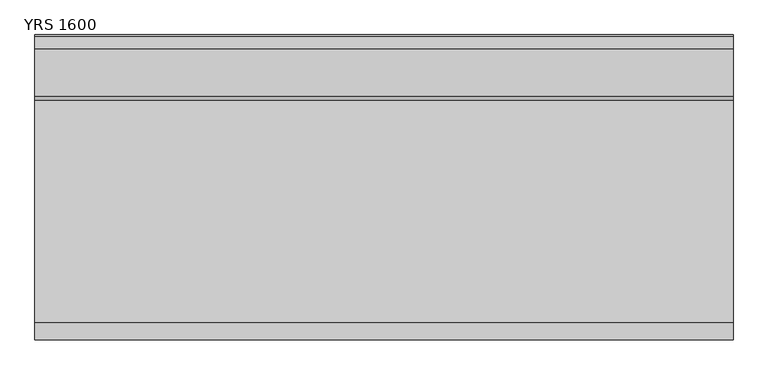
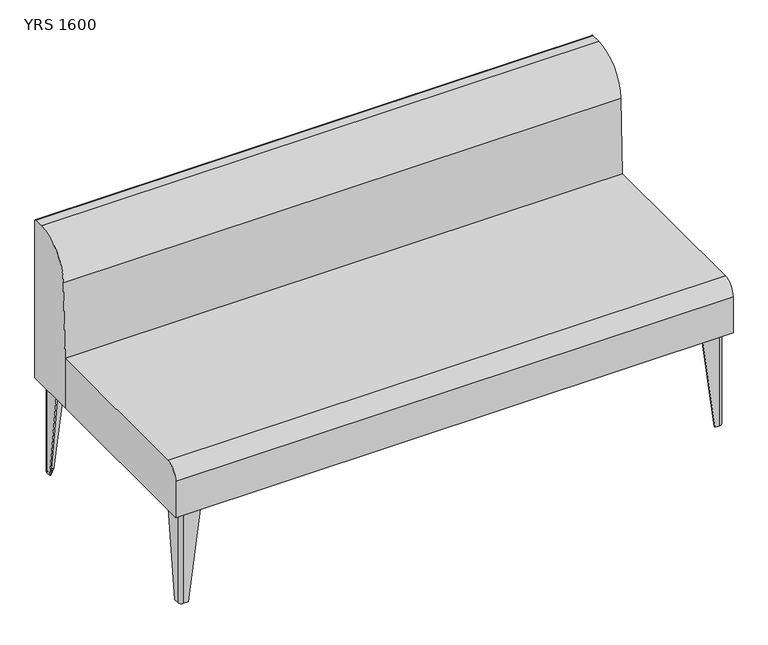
"""IFC4 building model written with IfcOpenShell, lengths in millimetres: furniture geometry, Mobiliário_Mobiliário de Escritório_LinhaYoung_Sofa Reto (Aço) - YR_Marelli : YRS 1600."""

from ifc_helpers import new_model, si_unit, point, frame, frame_2d, origin, origin_with_axes, place, context, project, spatial, polyline, circle_curve, trimmed, segment, composite_curve, outline, extrude, source, transform, mapped, element, save
from ifc_brep_helpers import plane_surface, cylinder_surface, revolved_surface, advanced_brep


def yrs_1600_2b5b6c77(model_context):
    return source(origin(), model_context, "Body", "SolidModel", [
        advanced_brep(
        [(20.0, 75.0, 280.0), (20.0, 25.0, 280.0), (30.0, 15.0, 280.0), (80.0, 15.0, 280.0), (80.0, 18.0, 280.0), (30.0, 18.0, 280.0), (23.0, 25.0, 280.0), (23.0, 75.0, 280.0), (20.0, 39.0, 0.0), (23.0, 39.0, 0.0), (23.0, 25.0, 0.0), (30.0, 18.0, 0.0), (44.0, 18.0, 0.0), (44.0, 15.0, 0.0), (30.0, 15.0, 0.0), (20.0, 25.0, 0.0)],
        [
            (0, 1),
            (1, 2, circle_curve(frame((30.0, 25.0, 280.0), z_axis=(0.0, 0.0, 1.0), x_axis=(0.0, -1.0, 0.0)), 10.0)),
            (2, 3),
            (3, 4),
            (4, 5),
            (5, 6, circle_curve(frame((30.0, 25.0, 280.0), z_axis=(0.0, 0.0, -1.0), x_axis=(-1.0, 0.0, 0.0)), 7.0)),
            (6, 7),
            (7, 0),
            (8, 9),
            (9, 10),
            (10, 11, circle_curve(frame((30.0, 25.0, 0.0), z_axis=(0.0, 0.0, 1.0), x_axis=(-1.0, 0.0, 0.0)), 7.0)),
            (11, 12),
            (12, 13),
            (13, 14),
            (14, 15, circle_curve(frame((30.0, 25.0, 0.0), z_axis=(0.0, 0.0, -1.0), x_axis=(0.0, -1.0, 0.0)), 10.0)),
            (15, 8),
            (15, 1),
            (0, 8),
            (14, 2),
            (13, 3),
            (12, 4),
            (11, 5),
            (10, 6),
            (9, 7),
        ],
        [
            plane_surface(frame((38.25, 33.25, 280.0), z_axis=(0.0, 0.0, 1.0), x_axis=(0.0, -1.0, 0.0))),
            plane_surface(frame((29.25, 24.25, 0.0), z_axis=(0.0, 0.0, -1.0), x_axis=(0.0, -1.0, 0.0))),
            plane_surface(frame((20.0, 32.0, 0.0), z_axis=(-1.0, 0.0, 0.0), x_axis=(0.0, -1.0, 0.0))),
            cylinder_surface(frame((30.0, 25.0, 0.0), z_axis=(0.0, 0.0, 1.0), x_axis=(0.0, -1.0, 0.0)), 10.0),
            plane_surface(frame((37.0, 15.0, 0.0), z_axis=(0.0, -1.0, 0.0), x_axis=(1.0, 0.0, 0.0))),
            plane_surface(frame((44.0, 16.5, 0.0), z_axis=(0.9918357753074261, 0.0, -0.12752174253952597), x_axis=(0.0, 1.0, 0.0))),
            plane_surface(frame((37.0, 18.0, 0.0), z_axis=(0.0, 1.0, 0.0), x_axis=(-1.0, 0.0, 0.0))),
            revolved_surface(polyline([(23.0, 25.0, 280.0), (23.0, 25.0, 0.0)]), (30.0, 25.0, 0.0), (0.0, 0.0, 1.0)),
            plane_surface(frame((23.0, 32.0, 0.0), z_axis=(1.0, 0.0, 0.0), x_axis=(0.0, 1.0, 0.0))),
            plane_surface(frame((21.5, 39.0, 0.0), z_axis=(0.0, 0.9918357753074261, -0.12752174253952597), x_axis=(-1.0, 0.0, 0.0))),
        ],
        [
            (0, [[1, 2, 3, 4, 5, 6, 7, 8]]),
            (1, [[9, 10, 11, 12, 13, 14, 15, 16]]),
            (2, [[-16, 17, -1, 18]]),
            (3, [[-15, 19, -2, -17]]),
            (4, [[-14, 20, -3, -19]]),
            (5, [[-13, 21, -4, -20]]),
            (6, [[-12, 22, -5, -21]]),
            (7, [[-11, 23, -6, -22]]),
            (8, [[-10, 24, -7, -23]]),
            (9, [[-9, -18, -8, -24]]),
        ],
    ),
        advanced_brep(
        [(1580.0, 75.0, 280.0), (1577.0, 75.0, 280.0), (1577.0, 25.0, 280.0), (1570.0, 18.0, 280.0), (1520.0, 18.0, 280.0), (1520.0, 15.0, 280.0), (1570.0, 15.0, 280.0), (1580.0, 25.0, 280.0), (1580.0, 39.0, 0.0), (1580.0, 25.0, 0.0), (1570.0, 15.0, 0.0), (1556.0, 15.0, 0.0), (1556.0, 18.0, 0.0), (1570.0, 18.0, 0.0), (1577.0, 25.0, 0.0), (1577.0, 39.0, 0.0)],
        [
            (0, 1),
            (1, 2),
            (2, 3, circle_curve(frame((1570.0, 25.0, 280.0), z_axis=(0.0, 0.0, -1.0), x_axis=(0.0, -1.0, 0.0)), 7.0)),
            (3, 4),
            (4, 5),
            (5, 6),
            (6, 7, circle_curve(frame((1570.0, 25.0, 280.0), z_axis=(0.0, 0.0, 1.0), x_axis=(1.0, 0.0, 0.0)), 10.0)),
            (7, 0),
            (8, 9),
            (9, 10, circle_curve(frame((1570.0, 25.0, 0.0), z_axis=(0.0, 0.0, -1.0), x_axis=(1.0, 0.0, 0.0)), 10.0)),
            (10, 11),
            (11, 12),
            (12, 13),
            (13, 14, circle_curve(frame((1570.0, 25.0, 0.0), z_axis=(0.0, 0.0, 1.0), x_axis=(0.0, -1.0, 0.0)), 7.0)),
            (14, 15),
            (15, 8),
            (8, 0),
            (7, 9),
            (6, 10),
            (5, 11),
            (4, 12),
            (3, 13),
            (2, 14),
            (1, 15),
        ],
        [
            plane_surface(frame((1561.75, 33.25, 280.0), z_axis=(0.0, 0.0, 1.0), x_axis=(-1.0, 0.0, 0.0))),
            plane_surface(frame((1570.75, 24.25, 0.0), z_axis=(0.0, 0.0, -1.0), x_axis=(-1.0, 0.0, 0.0))),
            plane_surface(frame((1580.0, 32.0, 0.0), z_axis=(1.0, 0.0, 0.0), x_axis=(0.0, 1.0, 0.0))),
            cylinder_surface(frame((1570.0, 25.0, 0.0), z_axis=(0.0, 0.0, 1.0), x_axis=(1.0, 0.0, 0.0)), 10.0),
            plane_surface(frame((1563.0, 15.0, 0.0), z_axis=(0.0, -1.0, 0.0), x_axis=(1.0, 0.0, 0.0))),
            plane_surface(frame((1556.0, 16.5, 0.0), z_axis=(-0.9918357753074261, 0.0, -0.127521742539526), x_axis=(0.0, -1.0, 0.0))),
            plane_surface(frame((1563.0, 18.0, 0.0), z_axis=(0.0, 1.0, 0.0), x_axis=(-1.0, 0.0, 0.0))),
            revolved_surface(polyline([(1570.0, 18.0, 280.0), (1570.0, 18.0, 0.0)]), (1570.0, 25.0, 0.0), (0.0, 0.0, 1.0)),
            plane_surface(frame((1577.0, 32.0, 0.0), z_axis=(-1.0, 0.0, 0.0), x_axis=(0.0, -1.0, 0.0))),
            plane_surface(frame((1578.5, 39.0, 0.0), z_axis=(0.0, 0.9918357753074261, -0.12752174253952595), x_axis=(-1.0, 0.0, 0.0))),
        ],
        [
            (0, [[1, 2, 3, 4, 5, 6, 7, 8]]),
            (1, [[9, 10, 11, 12, 13, 14, 15, 16]]),
            (2, [[-9, 17, -8, 18]]),
            (3, [[-10, -18, -7, 19]]),
            (4, [[-11, -19, -6, 20]]),
            (5, [[-12, -20, -5, 21]]),
            (6, [[-13, -21, -4, 22]]),
            (7, [[-14, -22, -3, 23]]),
            (8, [[-15, -23, -2, 24]]),
            (9, [[-16, -24, -1, -17]]),
        ],
    ),
        advanced_brep(
        [(20.0, 625.0, 280.0), (23.0, 625.0, 280.0), (23.0, 675.0, 280.0), (30.0, 682.0, 280.0), (80.0, 682.0, 280.0), (80.0, 685.0, 280.0), (30.0, 685.0, 280.0), (20.0, 675.0, 280.0), (20.0, 661.0, 0.0), (20.0, 675.0, 0.0), (30.0, 685.0, 0.0), (44.0, 685.0, 0.0), (44.0, 682.0, 0.0), (30.0, 682.0, 0.0), (23.0, 675.0, 0.0), (23.0, 661.0, 0.0)],
        [
            (0, 1),
            (1, 2),
            (2, 3, circle_curve(frame((30.0, 675.0, 280.0), z_axis=(0.0, 0.0, -1.0), x_axis=(0.0, 1.0, 0.0)), 7.0)),
            (3, 4),
            (4, 5),
            (5, 6),
            (6, 7, circle_curve(frame((30.0, 675.0, 280.0), z_axis=(0.0, 0.0, 1.0), x_axis=(-1.0, 0.0, 0.0)), 10.0)),
            (7, 0),
            (8, 9),
            (9, 10, circle_curve(frame((30.0, 675.0, 0.0), z_axis=(0.0, 0.0, -1.0), x_axis=(-1.0, 0.0, 0.0)), 10.0)),
            (10, 11),
            (11, 12),
            (12, 13),
            (13, 14, circle_curve(frame((30.0, 675.0, 0.0), z_axis=(0.0, 0.0, 1.0), x_axis=(0.0, 1.0, 0.0)), 7.0)),
            (14, 15),
            (15, 8),
            (8, 0),
            (7, 9),
            (6, 10),
            (5, 11),
            (4, 12),
            (3, 13),
            (2, 14),
            (1, 15),
        ],
        [
            plane_surface(frame((38.25, 666.75, 280.0), z_axis=(0.0, 0.0, 1.0), x_axis=(1.0, 0.0, 0.0))),
            plane_surface(frame((29.25, 675.75, 0.0), z_axis=(0.0, 0.0, -1.0), x_axis=(1.0, 0.0, 0.0))),
            plane_surface(frame((20.0, 668.0, 0.0), z_axis=(-1.0, 0.0, 0.0), x_axis=(0.0, -1.0, 0.0))),
            cylinder_surface(frame((30.0, 675.0, 0.0), z_axis=(0.0, 0.0, 1.0), x_axis=(-1.0, 0.0, 0.0)), 10.0),
            plane_surface(frame((37.0, 685.0, 0.0), z_axis=(0.0, 1.0, 0.0), x_axis=(-1.0, 0.0, 0.0))),
            plane_surface(frame((44.0, 683.5, 0.0), z_axis=(0.9918357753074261, 0.0, -0.12752174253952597), x_axis=(0.0, 1.0, 0.0))),
            plane_surface(frame((37.0, 682.0, 0.0), z_axis=(0.0, -1.0, 0.0), x_axis=(1.0, 0.0, 0.0))),
            revolved_surface(polyline([(30.0, 682.0, 280.0), (30.0, 682.0, 0.0)]), (30.0, 675.0, 0.0), (0.0, 0.0, 1.0)),
            plane_surface(frame((23.0, 668.0, 0.0), z_axis=(1.0, 0.0, 0.0), x_axis=(0.0, 1.0, 0.0))),
            plane_surface(frame((21.5, 661.0, 0.0), z_axis=(0.0, -0.9918357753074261, -0.127521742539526), x_axis=(1.0, 0.0, 0.0))),
        ],
        [
            (0, [[1, 2, 3, 4, 5, 6, 7, 8]]),
            (1, [[9, 10, 11, 12, 13, 14, 15, 16]]),
            (2, [[-9, 17, -8, 18]]),
            (3, [[-10, -18, -7, 19]]),
            (4, [[-11, -19, -6, 20]]),
            (5, [[-12, -20, -5, 21]]),
            (6, [[-13, -21, -4, 22]]),
            (7, [[-14, -22, -3, 23]]),
            (8, [[-15, -23, -2, 24]]),
            (9, [[-16, -24, -1, -17]]),
        ],
    ),
        advanced_brep(
        [(1580.0, 625.0, 280.0), (1580.0, 675.0, 280.0), (1570.0, 685.0, 280.0), (1520.0, 685.0, 280.0), (1520.0, 682.0, 280.0), (1570.0, 682.0, 280.0), (1577.0, 675.0, 280.0), (1577.0, 625.0, 280.0), (1580.0, 661.0, 0.0), (1577.0, 661.0, 0.0), (1577.0, 675.0, 0.0), (1570.0, 682.0, 0.0), (1556.0, 682.0, 0.0), (1556.0, 685.0, 0.0), (1570.0, 685.0, 0.0), (1580.0, 675.0, 0.0)],
        [
            (0, 1),
            (1, 2, circle_curve(frame((1570.0, 675.0, 280.0), z_axis=(0.0, 0.0, 1.0), x_axis=(0.0, 1.0, 0.0)), 10.0)),
            (2, 3),
            (3, 4),
            (4, 5),
            (5, 6, circle_curve(frame((1570.0, 675.0, 280.0), z_axis=(0.0, 0.0, -1.0), x_axis=(1.0, 0.0, 0.0)), 7.0)),
            (6, 7),
            (7, 0),
            (8, 9),
            (9, 10),
            (10, 11, circle_curve(frame((1570.0, 675.0, 0.0), z_axis=(0.0, 0.0, 1.0), x_axis=(1.0, 0.0, 0.0)), 7.0)),
            (11, 12),
            (12, 13),
            (13, 14),
            (14, 15, circle_curve(frame((1570.0, 675.0, 0.0), z_axis=(0.0, 0.0, -1.0), x_axis=(0.0, 1.0, 0.0)), 10.0)),
            (15, 8),
            (15, 1),
            (0, 8),
            (14, 2),
            (13, 3),
            (12, 4),
            (11, 5),
            (10, 6),
            (9, 7),
        ],
        [
            plane_surface(frame((1561.75, 666.75, 280.0), z_axis=(0.0, 0.0, 1.0), x_axis=(0.0, 1.0, 0.0))),
            plane_surface(frame((1570.75, 675.75, 0.0), z_axis=(0.0, 0.0, -1.0), x_axis=(0.0, 1.0, 0.0))),
            plane_surface(frame((1580.0, 668.0, 0.0), z_axis=(1.0, 0.0, 0.0), x_axis=(0.0, 1.0, 0.0))),
            cylinder_surface(frame((1570.0, 675.0, 0.0), z_axis=(0.0, 0.0, 1.0), x_axis=(0.0, 1.0, 0.0)), 10.0),
            plane_surface(frame((1563.0, 685.0, 0.0), z_axis=(0.0, 1.0, 0.0), x_axis=(-1.0, 0.0, 0.0))),
            plane_surface(frame((1556.0, 683.5, 0.0), z_axis=(-0.9918357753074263, 0.0, -0.1275217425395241), x_axis=(0.0, -1.0, 0.0))),
            plane_surface(frame((1563.0, 682.0, 0.0), z_axis=(0.0, -1.0, 0.0), x_axis=(1.0, 0.0, 0.0))),
            revolved_surface(polyline([(1577.0, 675.0, 280.0), (1577.0, 675.0, 0.0)]), (1570.0, 675.0, 0.0), (0.0, 0.0, 1.0)),
            plane_surface(frame((1577.0, 668.0, 0.0), z_axis=(-1.0, 0.0, 0.0), x_axis=(0.0, -1.0, 0.0))),
            plane_surface(frame((1578.5, 661.0, 0.0), z_axis=(0.0, -0.9918357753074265, -0.1275217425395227), x_axis=(1.0, 0.0, 0.0))),
        ],
        [
            (0, [[1, 2, 3, 4, 5, 6, 7, 8]]),
            (1, [[9, 10, 11, 12, 13, 14, 15, 16]]),
            (2, [[-16, 17, -1, 18]]),
            (3, [[-15, 19, -2, -17]]),
            (4, [[-14, 20, -3, -19]]),
            (5, [[-13, 21, -4, -20]]),
            (6, [[-12, 22, -5, -21]]),
            (7, [[-11, 23, -6, -22]]),
            (8, [[-10, 24, -7, -23]]),
            (9, [[-9, -18, -8, -24]]),
        ],
    ),
        extrude(outline(composite_curve([segment(polyline([(23.0, 39.0), (44.0, 18.0), (30.0, 18.0)]), True, "CONTINUOUS"), segment(trimmed(circle_curve(frame_2d((30.0, 25.0)), 7.0), [point((30.0, 18.0))], [point((23.0, 25.0))], False, "CARTESIAN"), True, "CONTINUOUS"), segment(polyline([(23.0, 25.0), (23.0, 39.0)]), True, "CONTINUOUS")], self_intersect=False)), origin_with_axes(), (0.0, 0.0, 1.0), 1.0),
        extrude(outline(composite_curve([segment(polyline([(23.0, 661.0), (23.0, 675.0)]), True, "CONTINUOUS"), segment(trimmed(circle_curve(frame_2d((30.0, 675.0)), 7.0), [point((23.0, 675.0))], [point((30.0, 682.0))], False, "CARTESIAN"), True, "CONTINUOUS"), segment(polyline([(30.0, 682.0), (44.0, 682.0), (23.0, 661.0)]), True, "CONTINUOUS")], self_intersect=False)), origin_with_axes(), (0.0, 0.0, 1.0), 1.0),
        extrude(outline(composite_curve([segment(polyline([(1577.0, 39.0), (1577.0, 25.0)]), True, "CONTINUOUS"), segment(trimmed(circle_curve(frame_2d((1570.0, 25.0)), 7.0), [point((1577.0, 25.0))], [point((1570.0, 18.0))], False, "CARTESIAN"), True, "CONTINUOUS"), segment(polyline([(1570.0, 18.0), (1556.0, 18.0), (1577.0, 39.0)]), True, "CONTINUOUS")], self_intersect=False)), origin_with_axes(), (0.0, 0.0, 1.0), 1.0),
        extrude(outline(composite_curve([segment(polyline([(1577.0, 661.0), (1556.0, 682.0), (1570.0, 682.0)]), True, "CONTINUOUS"), segment(trimmed(circle_curve(frame_2d((1570.0, 675.0)), 7.0), [point((1570.0, 682.0))], [point((1577.0, 675.0))], False, "CARTESIAN"), True, "CONTINUOUS"), segment(polyline([(1577.0, 675.0), (1577.0, 661.0)]), True, "CONTINUOUS")], self_intersect=False)), origin_with_axes(), (0.0, 0.0, 1.0), 1.0),
        extrude(outline(composite_curve([segment(trimmed(circle_curve(frame_2d((30.0, 25.0)), 7.0), [point((30.0, 18.0))], [point((23.0, 25.0))], False, "CARTESIAN"), True, "CONTINUOUS"), segment(polyline([(23.0, 25.0), (23.0, 93.0)]), True, "CONTINUOUS"), segment(trimmed(circle_curve(frame_2d((28.0, 93.0)), 5.0), [point((23.0, 93.0))], [point((28.0, 98.0))], False, "CARTESIAN"), True, "CONTINUOUS"), segment(polyline([(28.0, 98.0), (51.9545624, 98.0)]), True, "CONTINUOUS"), segment(trimmed(circle_curve(frame_2d((52.6241051, 89.931755)), 8.0959783), [point((51.9545624, 98.0))], [point((58.520382, 95.479618))], False, "CARTESIAN"), True, "CONTINUOUS"), segment(polyline([(58.520382, 95.479618), (100.479618, 53.520382)]), True, "CONTINUOUS"), segment(trimmed(circle_curve(frame_2d((94.931755, 47.6241051)), 8.0959783), [point((100.479618, 53.520382))], [point((103.0, 46.9545624))], False, "CARTESIAN"), True, "CONTINUOUS"), segment(polyline([(103.0, 46.9545624), (103.0, 23.0)]), True, "CONTINUOUS"), segment(trimmed(circle_curve(frame_2d((98.0, 23.0)), 5.0), [point((103.0, 23.0))], [point((98.0, 18.0))], False, "CARTESIAN"), True, "CONTINUOUS"), segment(polyline([(98.0, 18.0), (30.0, 18.0)]), True, "CONTINUOUS")], self_intersect=False)), frame((0.0, 0.0, 279.0), z_axis=(0.0, 0.0, 1.0), x_axis=(1.0, 0.0, 0.0)), (0.0, 0.0, 1.0), 1.0),
        extrude(outline(composite_curve([segment(polyline([(30.0, 682.0), (98.0, 682.0)]), True, "CONTINUOUS"), segment(trimmed(circle_curve(frame_2d((98.0, 677.0)), 5.0), [point((98.0, 682.0))], [point((103.0, 677.0))], False, "CARTESIAN"), True, "CONTINUOUS"), segment(polyline([(103.0, 677.0), (103.0, 653.0454376)]), True, "CONTINUOUS"), segment(trimmed(circle_curve(frame_2d((94.931755, 652.3758949)), 8.0959783), [point((103.0, 653.0454376))], [point((100.479618, 646.479618))], False, "CARTESIAN"), True, "CONTINUOUS"), segment(polyline([(100.479618, 646.479618), (58.520382, 604.520382)]), True, "CONTINUOUS"), segment(trimmed(circle_curve(frame_2d((52.6241051, 610.068245)), 8.0959783), [point((58.520382, 604.520382))], [point((51.9545624, 602.0))], False, "CARTESIAN"), True, "CONTINUOUS"), segment(polyline([(51.9545624, 602.0), (28.0, 602.0)]), True, "CONTINUOUS"), segment(trimmed(circle_curve(frame_2d((28.0, 607.0)), 5.0), [point((28.0, 602.0))], [point((23.0, 607.0))], False, "CARTESIAN"), True, "CONTINUOUS"), segment(polyline([(23.0, 607.0), (23.0, 675.0)]), True, "CONTINUOUS"), segment(trimmed(circle_curve(frame_2d((30.0, 675.0)), 7.0), [point((23.0, 675.0))], [point((30.0, 682.0))], False, "CARTESIAN"), True, "CONTINUOUS")], self_intersect=False)), frame((0.0, 0.0, 279.0), z_axis=(0.0, 0.0, 1.0), x_axis=(1.0, 0.0, 0.0)), (0.0, 0.0, 1.0), 1.0),
        extrude(outline(composite_curve([segment(polyline([(1570.0, 18.0), (1502.0, 18.0)]), True, "CONTINUOUS"), segment(trimmed(circle_curve(frame_2d((1502.0, 23.0)), 5.0), [point((1502.0, 18.0))], [point((1497.0, 23.0))], False, "CARTESIAN"), True, "CONTINUOUS"), segment(polyline([(1497.0, 23.0), (1497.0, 46.9545624)]), True, "CONTINUOUS"), segment(trimmed(circle_curve(frame_2d((1505.068245, 47.6241051)), 8.0959783), [point((1497.0, 46.9545624))], [point((1499.520382, 53.520382))], False, "CARTESIAN"), True, "CONTINUOUS"), segment(polyline([(1499.520382, 53.520382), (1541.479618, 95.479618)]), True, "CONTINUOUS"), segment(trimmed(circle_curve(frame_2d((1547.3758949, 89.931755)), 8.0959783), [point((1541.479618, 95.479618))], [point((1548.0454376, 98.0))], False, "CARTESIAN"), True, "CONTINUOUS"), segment(polyline([(1548.0454376, 98.0), (1572.0, 98.0)]), True, "CONTINUOUS"), segment(trimmed(circle_curve(frame_2d((1572.0, 93.0)), 5.0), [point((1572.0, 98.0))], [point((1577.0, 93.0))], False, "CARTESIAN"), True, "CONTINUOUS"), segment(polyline([(1577.0, 93.0), (1577.0, 25.0)]), True, "CONTINUOUS"), segment(trimmed(circle_curve(frame_2d((1570.0, 25.0)), 7.0), [point((1577.0, 25.0))], [point((1570.0, 18.0))], False, "CARTESIAN"), True, "CONTINUOUS")], self_intersect=False)), frame((0.0, 0.0, 279.0), z_axis=(0.0, 0.0, 1.0), x_axis=(1.0, 0.0, 0.0)), (0.0, 0.0, 1.0), 1.0),
        extrude(outline(composite_curve([segment(trimmed(circle_curve(frame_2d((1570.0, 675.0)), 7.0), [point((1570.0, 682.0))], [point((1577.0, 675.0))], False, "CARTESIAN"), True, "CONTINUOUS"), segment(polyline([(1577.0, 675.0), (1577.0, 607.0)]), True, "CONTINUOUS"), segment(trimmed(circle_curve(frame_2d((1572.0, 607.0)), 5.0), [point((1577.0, 607.0))], [point((1572.0, 602.0))], False, "CARTESIAN"), True, "CONTINUOUS"), segment(polyline([(1572.0, 602.0), (1548.0454376, 602.0)]), True, "CONTINUOUS"), segment(trimmed(circle_curve(frame_2d((1547.3758949, 610.068245)), 8.0959783), [point((1548.0454376, 602.0))], [point((1541.479618, 604.520382))], False, "CARTESIAN"), True, "CONTINUOUS"), segment(polyline([(1541.479618, 604.520382), (1499.520382, 646.479618)]), True, "CONTINUOUS"), segment(trimmed(circle_curve(frame_2d((1505.068245, 652.3758949)), 8.0959783), [point((1499.520382, 646.479618))], [point((1497.0, 653.0454376))], False, "CARTESIAN"), True, "CONTINUOUS"), segment(polyline([(1497.0, 653.0454376), (1497.0, 677.0)]), True, "CONTINUOUS"), segment(trimmed(circle_curve(frame_2d((1502.0, 677.0)), 5.0), [point((1497.0, 677.0))], [point((1502.0, 682.0))], False, "CARTESIAN"), True, "CONTINUOUS"), segment(polyline([(1502.0, 682.0), (1570.0, 682.0)]), True, "CONTINUOUS")], self_intersect=False)), frame((0.0, 0.0, 279.0), z_axis=(0.0, 0.0, 1.0), x_axis=(1.0, 0.0, 0.0)), (0.0, 0.0, 1.0), 1.0),
        extrude(outline(composite_curve([segment(polyline([(700.0, 756.802426), (700.0, 280.0), (550.0, 280.0), (550.0, 430.0), (558.2568376, 654.223651)]), True, "CONTINUOUS"), segment(trimmed(circle_curve(frame_2d((668.0, 650.1824561)), 109.8175439), [point((558.2568376, 654.223651))], [point((668.0, 760.0))], False, "CARTESIAN"), True, "CONTINUOUS"), segment(polyline([(668.0, 760.0), (696.802426, 760.0)]), True, "CONTINUOUS"), segment(trimmed(circle_curve(frame_2d((696.802426, 756.802426)), 3.197574), [point((696.802426, 760.0))], [point((700.0, 756.802426))], False, "CARTESIAN"), True, "CONTINUOUS")], self_intersect=False)), frame((0.0, 0.0, 0.0), z_axis=(1.0, 0.0, 0.0), x_axis=(0.0, 1.0, 0.0)), (0.0, 0.0, 1.0), 1600.0),
        extrude(outline(composite_curve([segment(polyline([(550.0, 430.0), (550.0, 280.0), (0.0, 280.0), (0.0, 390.0)]), True, "CONTINUOUS"), segment(trimmed(circle_curve(frame_2d((40.0, 390.0)), 40.0), [point((0.0, 390.0))], [point((40.0, 430.0))], False, "CARTESIAN"), True, "CONTINUOUS"), segment(polyline([(40.0, 430.0), (550.0, 430.0)]), True, "CONTINUOUS")], self_intersect=False)), frame((0.0, 0.0, 0.0), z_axis=(1.0, 0.0, 0.0), x_axis=(0.0, 1.0, 0.0)), (0.0, 0.0, 1.0), 1600.0),
    ])


if __name__ == "__main__":
    model = new_model("IFC4")
    model_context = context("Model", 3, world=origin())
    ifc_project = project(units=[si_unit("LENGTHUNIT", "METRE", prefix="MILLI")], contexts=[model_context])
    site = spatial("IfcSite", under=ifc_project)
    building = spatial("IfcBuilding", under=site)
    placement = place(None, origin())
    yrs_1600_shape = yrs_1600_2b5b6c77(model_context)
    element("IfcFurniture", 1, ObjectType="Mobiliário_Mobiliário de Escritório_LinhaYoung_Sofa Reto (Aço) - YR_Marelli : YRS 1600", at=placement, inside=building, context=model_context, shape_type="MappedRepresentation", body=[
        mapped(yrs_1600_shape, transform((0.0, 0.0, 0.0), x_axis=(1.0, 0.0, 0.0), y_axis=(0.0, 1.0, 0.0), z_axis=(0.0, 0.0, 1.0))),
    ])
    save(model, "model.ifc")
